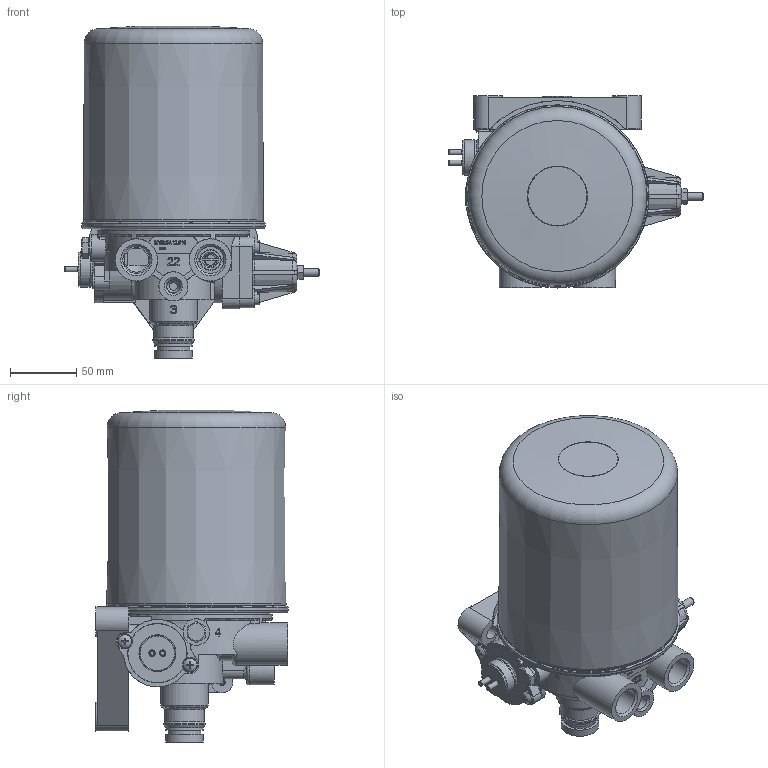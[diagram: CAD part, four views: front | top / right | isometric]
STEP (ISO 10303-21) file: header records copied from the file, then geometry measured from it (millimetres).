
FILE_DESCRIPTION(/* description */ (''),/* implementation_level */ '2;1');
FILE_NAME(/* name */ '8243.35.12.010-30-Реглятор давления с адсорбером_2.stp',/* time_stamp */ '2023-10-04T12:00:30+03:00',/* author */ (''),/* organization */ (''),/* preprocessor_version */ 'ST-DEVELOPER v16.7',/* originating_system */ 'SIEMENS PLM Software NX 1899',/* authorisation */ '');
FILE_SCHEMA (('AUTOMOTIVE_DESIGN { 1 0 10303 214 3 1 1 1 }'));
Length unit declared in the file: millimetre
Products named in the file (1): kuzm1DF85E98zv7s
Bounding box: 193.1 x 145.35 x 251.2 mm (x, y, z)
Volume: 461637.6 mm3; surface area: 359091.9 mm2
Topology: 1 solids, 16 shells, 1369 faces, 3691 edges, 2408 vertices
Faces by surface type: plane 715, cylinder 346, torus 152, cone 89, extrusion 56, bspline 9, sphere 2
Full cylindrical faces by diameter (mm): 1.5 x2, 1.7 x2, 2.2 x1, 2.5 x5, 3 x2, 3.2 x3, 3.5 x2, 4 x2, 4.2 x3, 5 x6, 5.5 x2, 6 x9, 6.2 x1, 6.6 x4, 7 x1, 8 x1, 9.5 x1, 10 x7, 10.2 x1, 10.5 x6, 11.5 x2, 12 x1, 14 x1, 16 x2, 16.6 x1, 17 x1, 18.5 x1, 20 x3, 20.5 x3, 22 x4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
Entity records: 47083 total; most frequent: CARTESIAN_POINT 14458, ORIENTED_EDGE 6664, DIRECTION 6538, EDGE_CURVE 3332, AXIS2_PLACEMENT_3D 2477, VERTEX_POINT 2305, EDGE_LOOP 1763, VECTOR 1584
